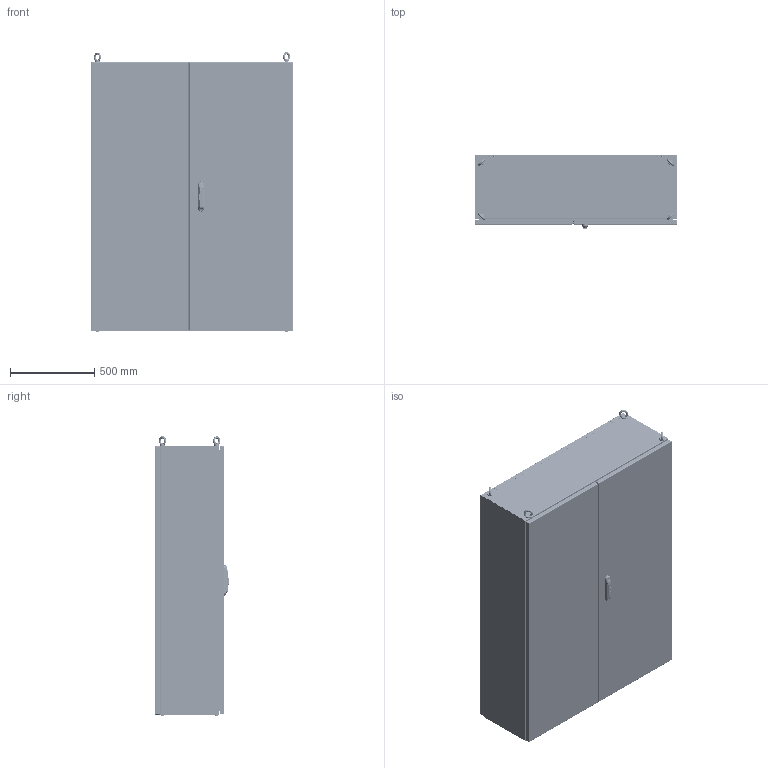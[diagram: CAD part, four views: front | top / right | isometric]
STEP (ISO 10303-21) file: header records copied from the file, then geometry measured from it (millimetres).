
FILE_DESCRIPTION(/* description */ (''),/* implementation_level */ '2;1');
FILE_NAME(/* name */ 'FCA12016040',/* time_stamp */ '2025-09-12T11:58:36+02:00',/* author */ ('INOXVENETA Spa'),/* organization */ ('www.inoxveneta.it '),/* preprocessor_version */ 'ST-DEVELOPER v19.4',/* originating_system */ 'Solid Edge',/* authorisation */ 'Unknown');
FILE_SCHEMA (('AUTOMOTIVE_DESIGN {1 0 10303 214 3 1 1}'));
Products named in the file (76): FCA12016040; F000X001.57; F0000001.29; F000X001.59; F0000001.28; F0000000.55; F0000000.02; F0000000.72; F000X001.58; F0000001.27; AE00500.10; AE00715.01; AE00219.03; F000X000.12_oa_0; F000X000.17_oa_1; F0000000.20; 38790003.14_oa_2; F000X000.18; F0000000.21; 38790003.14_oa_3; F000X000.19_oa_4; AE00217.25; AE00309.01; F000X000.20_oa_5; AE00368.00; AE00219.00; AE00224.00; M0000000.37; F000X000.35; F000X000.36; F0000000.33; F0000000.07; AE00100.03_oa_6; AE00100.03_oa_7; AE00100.03_oa_8; AE00100.03_oa_9; C0000000.08; F0000000.08; F000X000.14; AE00989.12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
Assembly tree (320 placements, depth 4):
  FCA12016040
    F000X001.57
      F0000001.29  x2
      F000X001.59
        F0000001.28
        F0000000.55  x2
        F0000000.02  x4
        F0000000.72
      F000X001.58
        F0000001.27
        F0000000.55  x2
        F0000000.02  x4
        F0000000.72
      AE00500.10  x36
    AE00715.01  x4
    AE00219.03  x10
    F000X000.12_oa_0
      F000X000.17_oa_1
        F0000000.20
        38790003.14_oa_2
      F000X000.18
        F0000000.21
        38790003.14_oa_3
      F000X000.19_oa_4
        F0000000.21
        AE00217.25
        AE00309.01
      F000X000.20_oa_5
        F0000000.20
        AE00217.25
        AE00309.01
      AE00368.00  x8
      AE00219.00  x8
      AE00224.00  x2
    M0000000.37  x10
    F000X000.35
      F000X000.36
        F0000000.33
      F0000000.07  x2
      AE00100.03_oa_6
      AE00100.03_oa_7
      AE00100.03_oa_8
      AE00100.03_oa_9
    C0000000.08
    F0000000.08  x8
    F000X000.14
      AE00989.12
    AE00198.03  x16
    F000X001.60
      F000X001.62
        F0000001.30
      F0000000.12  x8
      AE00222.15  x8
      AE00316.01  x8
      AE00315.01  x4
      AE00992.76  x2
      AE00992.31
      AE00992.18  x4
      AE00320.01  x2
      AE00636.02  x8
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Bounding box: 1200 x 438.2 x 1656.92 mm (x, y, z)
Volume: 14087051.6 mm3; surface area: 17015594.8 mm2
Topology: 344 solids, 344 shells, 14558 faces, 37807 edges, 23931 vertices
Faces by surface type: plane 7671, cylinder 4033, torus 966, bspline 742, cone 726, sphere 420
Full cylindrical faces by diameter (mm): 0.615 x8, 0.96 x1, 2 x4, 2.24 x2, 2.6 x8, 2.88 x1, 3 x1, 3.2 x2, 3.242 x2, 3.5 x1, 4 x27, 4.134 x17, 4.25 x312, 4.5 x318, 4.8 x8, 4.917 x66, 4.918 x16, 5 x21, 5.5 x2, 6 x120, 6.1 x40, 6.2 x17, 6.5 x40, 6.647 x4, 6.8 x2, 7.5 x4, 7.8 x6, 7.827 x8, 8 x20, 8.25 x4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
Entity records: 127213 total; most frequent: CARTESIAN_POINT 29941, DIRECTION 18582, ORIENTED_EDGE 18412, EDGE_CURVE 9206, LINE 6200, VECTOR 6200, AXIS2_PLACEMENT_3D 6191, VERTEX_POINT 6181
